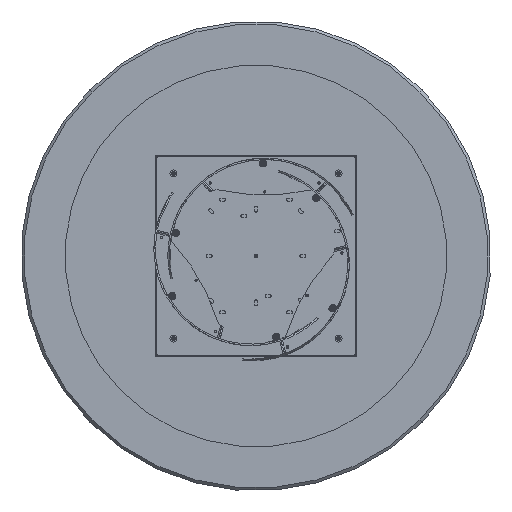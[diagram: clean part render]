
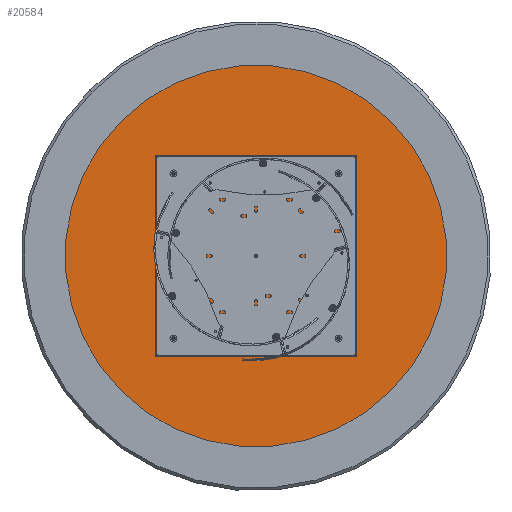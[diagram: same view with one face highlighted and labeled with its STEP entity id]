
A CAD part, front view. The second image highlights one B-rep face of the part: STEP entity #20584.
In plain terms, the highlighted planar face has unit normal (0, -1, 0).
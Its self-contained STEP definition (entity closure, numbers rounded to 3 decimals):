
#514 = FACE_BOUND ( 'NONE', #11308, .T. ) ;
#689 = EDGE_CURVE ( 'NONE', #17603, #10546, #14950, .T. ) ;
#738 = CARTESIAN_POINT ( 'NONE',  ( 0., 0., -400.9 ) ) ;
#914 = AXIS2_PLACEMENT_3D ( 'NONE', #20079, #18055, #11824 ) ;
#1493 = AXIS2_PLACEMENT_3D ( 'NONE', #20295, #12145, #18688 ) ;
#1649 = DIRECTION ( 'NONE',  ( 0., -1., 0. ) ) ;
#1749 = DIRECTION ( 'NONE',  ( 0., 0., -1. ) ) ;
#1847 = EDGE_LOOP ( 'NONE', ( #7343, #17072 ) ) ;
#2008 = DIRECTION ( 'NONE',  ( 0., 0., -1. ) ) ;
#2286 = EDGE_CURVE ( 'NONE', #15381, #20810, #14678, .T. ) ;
#3630 = FACE_OUTER_BOUND ( 'NONE', #1847, .T. ) ;
#4059 = DIRECTION ( 'NONE',  ( 0., 0., -1. ) ) ;
#4634 = VERTEX_POINT ( 'NONE', #9976 ) ;
#4663 = CARTESIAN_POINT ( 'NONE',  ( 0., 0., -397.5 ) ) ;
#4727 = AXIS2_PLACEMENT_3D ( 'NONE', #4981, #8185, #12912 ) ;
#4743 = AXIS2_PLACEMENT_3D ( 'NONE', #8892, #13618, #5899 ) ;
#4981 = CARTESIAN_POINT ( 'NONE',  ( 0., 0., 0. ) ) ;
#5320 = VERTEX_POINT ( 'NONE', #21059 ) ;
#5363 = DIRECTION ( 'NONE',  ( 0., -1., 0. ) ) ;
#5450 = FACE_BOUND ( 'NONE', #8763, .T. ) ;
#5501 = DIRECTION ( 'NONE',  ( 0., -1., 0. ) ) ;
#5545 = CARTESIAN_POINT ( 'NONE',  ( 0., 0., 0. ) ) ;
#5632 = EDGE_CURVE ( 'NONE', #12455, #4634, #10045, .T. ) ;
#5705 = ORIENTED_EDGE ( 'NONE', *, *, #689, .F. ) ;
#5899 = DIRECTION ( 'NONE',  ( 0., 0., -1. ) ) ;
#6018 = CIRCLE ( 'NONE', #20381, 3.4 ) ;
#6254 = EDGE_CURVE ( 'NONE', #20810, #15381, #14469, .T. ) ;
#6284 = CIRCLE ( 'NONE', #11410, 3.4 ) ;
#6692 = CIRCLE ( 'NONE', #14217, 3.4 ) ;
#6755 = DIRECTION ( 'NONE',  ( 0., -1., 0. ) ) ;
#7055 = PLANE ( 'NONE',  #7551 ) ;
#7343 = ORIENTED_EDGE ( 'NONE', *, *, #17710, .F. ) ;
#7406 = EDGE_CURVE ( 'NONE', #16619, #16864, #6284, .T. ) ;
#7419 = CIRCLE ( 'NONE', #914, 3.4 ) ;
#7473 = CARTESIAN_POINT ( 'NONE',  ( 0., 0., 650. ) ) ;
#7551 = AXIS2_PLACEMENT_3D ( 'NONE', #5545, #12083, #13481 ) ;
#8185 = DIRECTION ( 'NONE',  ( 0., 1., 0. ) ) ;
#8353 = DIRECTION ( 'NONE',  ( 0., 0., -1. ) ) ;
#8379 = CARTESIAN_POINT ( 'NONE',  ( 0., 0., -394.1 ) ) ;
#8437 = AXIS2_PLACEMENT_3D ( 'NONE', #4663, #1649, #1749 ) ;
#8573 = CARTESIAN_POINT ( 'NONE',  ( -397.5, 0., 0. ) ) ;
#8763 = EDGE_LOOP ( 'NONE', ( #14580, #10995 ) ) ;
#8892 = CARTESIAN_POINT ( 'NONE',  ( 397.5, 0., 0. ) ) ;
#9253 = ORIENTED_EDGE ( 'NONE', *, *, #6254, .F. ) ;
#9322 = EDGE_CURVE ( 'NONE', #13431, #13959, #6692, .T. ) ;
#9909 = EDGE_CURVE ( 'NONE', #13959, #13431, #6018, .T. ) ;
#9976 = CARTESIAN_POINT ( 'NONE',  ( 0., 0., -6.3 ) ) ;
#10045 = CIRCLE ( 'NONE', #1493, 6.3 ) ;
#10249 = DIRECTION ( 'NONE',  ( 0., -1., 0. ) ) ;
#10275 = AXIS2_PLACEMENT_3D ( 'NONE', #15068, #11632, #14963 ) ;
#10475 = CARTESIAN_POINT ( 'NONE',  ( 0., 0., 394.1 ) ) ;
#10545 = CIRCLE ( 'NONE', #4743, 3.4 ) ;
#10546 = VERTEX_POINT ( 'NONE', #738 ) ;
#10555 = AXIS2_PLACEMENT_3D ( 'NONE', #15051, #5501, #13436 ) ;
#10609 = CARTESIAN_POINT ( 'NONE',  ( 397.5, 0., 0. ) ) ;
#10995 = ORIENTED_EDGE ( 'NONE', *, *, #5632, .F. ) ;
#11308 = EDGE_LOOP ( 'NONE', ( #17542, #11414 ) ) ;
#11410 = AXIS2_PLACEMENT_3D ( 'NONE', #10609, #12125, #18870 ) ;
#11414 = ORIENTED_EDGE ( 'NONE', *, *, #9322, .F. ) ;
#11632 = DIRECTION ( 'NONE',  ( 0., -1., 0. ) ) ;
#11769 = FACE_BOUND ( 'NONE', #13922, .T. ) ;
#11824 = DIRECTION ( 'NONE',  ( 0., 0., -1. ) ) ;
#11863 = CARTESIAN_POINT ( 'NONE',  ( 397.5, 0., 3.4 ) ) ;
#11968 = CARTESIAN_POINT ( 'NONE',  ( -397.5, 0., 0. ) ) ;
#12083 = DIRECTION ( 'NONE',  ( 0., 1., 0. ) ) ;
#12125 = DIRECTION ( 'NONE',  ( 0., -1., 0. ) ) ;
#12145 = DIRECTION ( 'NONE',  ( 0., -1., 0. ) ) ;
#12338 = DIRECTION ( 'NONE',  ( 0., 0., 1. ) ) ;
#12378 = CARTESIAN_POINT ( 'NONE',  ( -397.5, 0., -3.4 ) ) ;
#12455 = VERTEX_POINT ( 'NONE', #15202 ) ;
#12758 = EDGE_CURVE ( 'NONE', #10546, #17603, #7419, .T. ) ;
#12912 = DIRECTION ( 'NONE',  ( 0., 0., 1. ) ) ;
#13177 = CARTESIAN_POINT ( 'NONE',  ( 0., 0., 397.5 ) ) ;
#13238 = ORIENTED_EDGE ( 'NONE', *, *, #12758, .F. ) ;
#13431 = VERTEX_POINT ( 'NONE', #17152 ) ;
#13436 = DIRECTION ( 'NONE',  ( 0., 0., -1. ) ) ;
#13481 = DIRECTION ( 'NONE',  ( 0., 0., 1. ) ) ;
#13618 = DIRECTION ( 'NONE',  ( 0., -1., 0. ) ) ;
#13706 = CIRCLE ( 'NONE', #10275, 6.3 ) ;
#13922 = EDGE_LOOP ( 'NONE', ( #18296, #19254 ) ) ;
#13959 = VERTEX_POINT ( 'NONE', #12378 ) ;
#14180 = EDGE_CURVE ( 'NONE', #20755, #5320, #20813, .T. ) ;
#14217 = AXIS2_PLACEMENT_3D ( 'NONE', #8573, #5363, #4059 ) ;
#14469 = CIRCLE ( 'NONE', #19253, 3.4 ) ;
#14580 = ORIENTED_EDGE ( 'NONE', *, *, #19883, .F. ) ;
#14651 = CARTESIAN_POINT ( 'NONE',  ( 0., 0., 400.9 ) ) ;
#14678 = CIRCLE ( 'NONE', #10555, 3.4 ) ;
#14735 = EDGE_CURVE ( 'NONE', #16864, #16619, #10545, .T. ) ;
#14791 = EDGE_LOOP ( 'NONE', ( #19946, #9253 ) ) ;
#14950 = CIRCLE ( 'NONE', #8437, 3.4 ) ;
#14963 = DIRECTION ( 'NONE',  ( 0., 0., -1. ) ) ;
#15051 = CARTESIAN_POINT ( 'NONE',  ( 0., 0., 397.5 ) ) ;
#15068 = CARTESIAN_POINT ( 'NONE',  ( 0., 0., 0. ) ) ;
#15202 = CARTESIAN_POINT ( 'NONE',  ( 0., 0., 6.3 ) ) ;
#15381 = VERTEX_POINT ( 'NONE', #10475 ) ;
#15438 = CIRCLE ( 'NONE', #16809, 650. ) ;
#16173 = CARTESIAN_POINT ( 'NONE',  ( 397.5, 0., -3.4 ) ) ;
#16619 = VERTEX_POINT ( 'NONE', #16173 ) ;
#16809 = AXIS2_PLACEMENT_3D ( 'NONE', #20480, #17273, #12338 ) ;
#16864 = VERTEX_POINT ( 'NONE', #11863 ) ;
#17072 = ORIENTED_EDGE ( 'NONE', *, *, #14180, .F. ) ;
#17152 = CARTESIAN_POINT ( 'NONE',  ( -397.5, 0., 3.4 ) ) ;
#17273 = DIRECTION ( 'NONE',  ( 0., 1., 0. ) ) ;
#17542 = ORIENTED_EDGE ( 'NONE', *, *, #9909, .F. ) ;
#17603 = VERTEX_POINT ( 'NONE', #8379 ) ;
#17710 = EDGE_CURVE ( 'NONE', #5320, #20755, #15438, .T. ) ;
#18055 = DIRECTION ( 'NONE',  ( 0., -1., 0. ) ) ;
#18183 = EDGE_LOOP ( 'NONE', ( #13238, #5705 ) ) ;
#18296 = ORIENTED_EDGE ( 'NONE', *, *, #7406, .F. ) ;
#18323 = FACE_BOUND ( 'NONE', #18183, .T. ) ;
#18688 = DIRECTION ( 'NONE',  ( 0., 0., -1. ) ) ;
#18870 = DIRECTION ( 'NONE',  ( 0., 0., -1. ) ) ;
#19253 = AXIS2_PLACEMENT_3D ( 'NONE', #13177, #6755, #8353 ) ;
#19254 = ORIENTED_EDGE ( 'NONE', *, *, #14735, .F. ) ;
#19883 = EDGE_CURVE ( 'NONE', #4634, #12455, #13706, .T. ) ;
#19946 = ORIENTED_EDGE ( 'NONE', *, *, #2286, .F. ) ;
#20079 = CARTESIAN_POINT ( 'NONE',  ( 0., 0., -397.5 ) ) ;
#20132 = FACE_BOUND ( 'NONE', #14791, .T. ) ;
#20295 = CARTESIAN_POINT ( 'NONE',  ( 0., 0., 0. ) ) ;
#20381 = AXIS2_PLACEMENT_3D ( 'NONE', #11968, #10249, #2008 ) ;
#20480 = CARTESIAN_POINT ( 'NONE',  ( 0., 0., 0. ) ) ;
#20584 = ADVANCED_FACE ( 'NONE', ( #5450, #514, #20132, #11769, #18323, #3630 ), #7055, .F. ) ;
#20755 = VERTEX_POINT ( 'NONE', #7473 ) ;
#20810 = VERTEX_POINT ( 'NONE', #14651 ) ;
#20813 = CIRCLE ( 'NONE', #4727, 650. ) ;
#21059 = CARTESIAN_POINT ( 'NONE',  ( 0., 0., -650. ) ) ;
